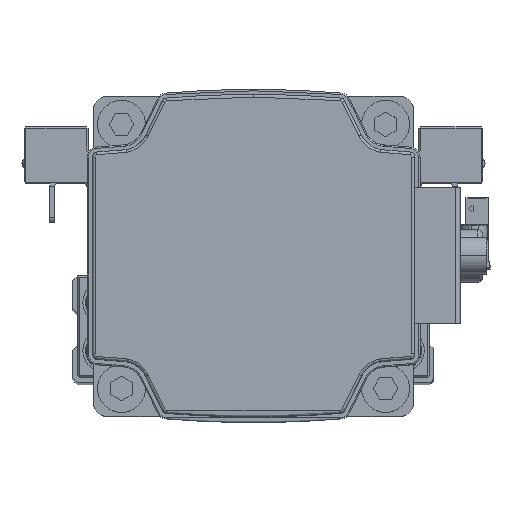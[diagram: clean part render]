
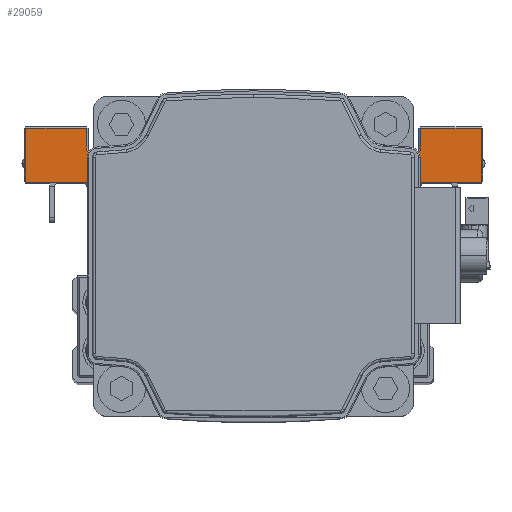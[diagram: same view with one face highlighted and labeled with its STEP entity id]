
A CAD part, top view. The second image highlights one B-rep face of the part: STEP entity #29059.
In plain terms, the highlighted planar face has unit normal (0, 0, 1) as drawn and (1, 0, 0) by its records, which use the part's own axes.
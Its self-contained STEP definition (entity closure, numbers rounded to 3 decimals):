
#133 = CARTESIAN_POINT ( 'NONE',  ( 25.5, 17.7, -31.3 ) ) ;
#140 = VERTEX_POINT ( 'NONE', #31415 ) ;
#1061 = AXIS2_PLACEMENT_3D ( 'NONE', #15854, #27722, #1085 ) ;
#1085 = DIRECTION ( 'NONE',  ( 0., 0., 1. ) ) ;
#1174 = DIRECTION ( 'NONE',  ( 0., 0., -1. ) ) ;
#1204 = DIRECTION ( 'NONE',  ( 0., 1., 0. ) ) ;
#1776 = VERTEX_POINT ( 'NONE', #18946 ) ;
#2049 = ORIENTED_EDGE ( 'NONE', *, *, #13234, .T. ) ;
#2319 = CARTESIAN_POINT ( 'NONE',  ( 25.5, 7.5, 42.7 ) ) ;
#3093 = CARTESIAN_POINT ( 'NONE',  ( 25.5, 17.7, -15. ) ) ;
#3094 = DIRECTION ( 'NONE',  ( 0., 0., 1. ) ) ;
#3113 = DIRECTION ( 'NONE',  ( -1., 0., 0. ) ) ;
#3150 = CARTESIAN_POINT ( 'NONE',  ( 25.5, -7.5, -15. ) ) ;
#3195 = CARTESIAN_POINT ( 'NONE',  ( 25.5, 14., -31.3 ) ) ;
#3429 = CIRCLE ( 'NONE', #25167, 2. ) ;
#3739 = CARTESIAN_POINT ( 'NONE',  ( 25.5, 5.5, 17. ) ) ;
#3765 = LINE ( 'NONE', #15614, #7444 ) ;
#3787 = CARTESIAN_POINT ( 'NONE',  ( 25.5, -7.5, 15. ) ) ;
#3816 = EDGE_CURVE ( 'NONE', #27417, #12379, #26136, .T. ) ;
#5341 = ORIENTED_EDGE ( 'NONE', *, *, #25834, .T. ) ;
#6537 = VERTEX_POINT ( 'NONE', #8719 ) ;
#6926 = ORIENTED_EDGE ( 'NONE', *, *, #22940, .T. ) ;
#7014 = DIRECTION ( 'NONE',  ( 0., 0., 1. ) ) ;
#7269 = VECTOR ( 'NONE', #1174, 1000. ) ;
#7329 = ORIENTED_EDGE ( 'NONE', *, *, #3816, .T. ) ;
#7444 = VECTOR ( 'NONE', #27474, 1000. ) ;
#7452 = VERTEX_POINT ( 'NONE', #9139 ) ;
#7460 = ORIENTED_EDGE ( 'NONE', *, *, #35049, .T. ) ;
#8719 = CARTESIAN_POINT ( 'NONE',  ( 25.5, 12.7, -30. ) ) ;
#9127 = VECTOR ( 'NONE', #21584, 1000. ) ;
#9139 = CARTESIAN_POINT ( 'NONE',  ( 25.5, 7.5, 17. ) ) ;
#9650 = AXIS2_PLACEMENT_3D ( 'NONE', #17871, #29738, #3094 ) ;
#9717 = CARTESIAN_POINT ( 'NONE',  ( 25.5, 7.5, -31.3 ) ) ;
#9955 = PLANE ( 'NONE',  #22537 ) ;
#10993 = CARTESIAN_POINT ( 'NONE',  ( 25.5, 5.5, -15. ) ) ;
#11079 = CARTESIAN_POINT ( 'NONE',  ( 25.5, 7.5, 15. ) ) ;
#11162 = EDGE_CURVE ( 'NONE', #31509, #27417, #17828, .T. ) ;
#11352 = DIRECTION ( 'NONE',  ( 0., 1., 0. ) ) ;
#11359 = LINE ( 'NONE', #23219, #21008 ) ;
#11821 = LINE ( 'NONE', #23676, #27663 ) ;
#11877 = CARTESIAN_POINT ( 'NONE',  ( 25.5, 12.7, 30. ) ) ;
#11954 = ORIENTED_EDGE ( 'NONE', *, *, #28867, .T. ) ;
#12064 = CARTESIAN_POINT ( 'NONE',  ( 25.5, 7.5, 42.7 ) ) ;
#12133 = ORIENTED_EDGE ( 'NONE', *, *, #31663, .T. ) ;
#12379 = VERTEX_POINT ( 'NONE', #30833 ) ;
#12691 = VERTEX_POINT ( 'NONE', #3195 ) ;
#13234 = EDGE_CURVE ( 'NONE', #34602, #13954, #15969, .T. ) ;
#13954 = VERTEX_POINT ( 'NONE', #14291 ) ;
#14183 = DIRECTION ( 'NONE',  ( 0., -1., 0. ) ) ;
#14184 = VECTOR ( 'NONE', #22942, 1000. ) ;
#14291 = CARTESIAN_POINT ( 'NONE',  ( 25.5, 17.7, -42.7 ) ) ;
#14945 = DIRECTION ( 'NONE',  ( 0., 0., 1. ) ) ;
#14967 = DIRECTION ( 'NONE',  ( 0., 0., 1. ) ) ;
#14998 = DIRECTION ( 'NONE',  ( 0., 0., -1. ) ) ;
#15591 = DIRECTION ( 'NONE',  ( -1., 0., 0. ) ) ;
#15614 = CARTESIAN_POINT ( 'NONE',  ( 25.5, 7.5, -15. ) ) ;
#15854 = CARTESIAN_POINT ( 'NONE',  ( 25.5, 14., 30. ) ) ;
#15933 = LINE ( 'NONE', #27807, #7269 ) ;
#15965 = VERTEX_POINT ( 'NONE', #25305 ) ;
#15969 = LINE ( 'NONE', #27839, #37757 ) ;
#16204 = EDGE_CURVE ( 'NONE', #6537, #31509, #38452, .T. ) ;
#16429 = VERTEX_POINT ( 'NONE', #31094 ) ;
#17765 = ORIENTED_EDGE ( 'NONE', *, *, #24360, .T. ) ;
#17828 = CIRCLE ( 'NONE', #1061, 1.3 ) ;
#17871 = CARTESIAN_POINT ( 'NONE',  ( 25.5, 14., -30. ) ) ;
#18545 = VERTEX_POINT ( 'NONE', #10993 ) ;
#18946 = CARTESIAN_POINT ( 'NONE',  ( 25.5, 17.7, 42.7 ) ) ;
#19056 = EDGE_CURVE ( 'NONE', #18545, #15965, #37121, .T. ) ;
#19435 = VERTEX_POINT ( 'NONE', #133 ) ;
#19688 = VECTOR ( 'NONE', #14183, 1000. ) ;
#20369 = AXIS2_PLACEMENT_3D ( 'NONE', #29757, #3113, #14967 ) ;
#20460 = EDGE_CURVE ( 'NONE', #7452, #16429, #3429, .T. ) ;
#21008 = VECTOR ( 'NONE', #35057, 1000. ) ;
#21584 = DIRECTION ( 'NONE',  ( 0., -1., 0. ) ) ;
#21693 = VECTOR ( 'NONE', #11352, 1000. ) ;
#21808 = CARTESIAN_POINT ( 'NONE',  ( 25.5, 7.5, -15. ) ) ;
#22124 = VERTEX_POINT ( 'NONE', #3787 ) ;
#22537 = AXIS2_PLACEMENT_3D ( 'NONE', #21808, #33652, #7014 ) ;
#22625 = ORIENTED_EDGE ( 'NONE', *, *, #16204, .T. ) ;
#22937 = EDGE_LOOP ( 'NONE', ( #5341, #2049, #33094, #6926, #12133, #22625, #32174, #7329, #36852, #7460, #33911, #38435, #17765, #11954, #26353, #36618 ) ) ;
#22940 = EDGE_CURVE ( 'NONE', #19435, #12691, #36344, .T. ) ;
#22942 = DIRECTION ( 'NONE',  ( 0., -1., 0. ) ) ;
#22986 = EDGE_CURVE ( 'NONE', #34775, #7452, #15933, .T. ) ;
#23219 = CARTESIAN_POINT ( 'NONE',  ( 25.5, 7.5, 43. ) ) ;
#23676 = CARTESIAN_POINT ( 'NONE',  ( 25.5, 17.7, -15. ) ) ;
#23731 = DIRECTION ( 'NONE',  ( 0., 0., 1. ) ) ;
#24360 = EDGE_CURVE ( 'NONE', #16429, #22124, #37705, .T. ) ;
#25167 = AXIS2_PLACEMENT_3D ( 'NONE', #3739, #15591, #27451 ) ;
#25305 = CARTESIAN_POINT ( 'NONE',  ( 25.5, 7.5, -17. ) ) ;
#25834 = EDGE_CURVE ( 'NONE', #15965, #34602, #11359, .T. ) ;
#26136 = LINE ( 'NONE', #37988, #21693 ) ;
#26306 = EDGE_CURVE ( 'NONE', #13954, #19435, #29736, .T. ) ;
#26353 = ORIENTED_EDGE ( 'NONE', *, *, #27225, .F. ) ;
#26418 = CIRCLE ( 'NONE', #9650, 1.3 ) ;
#26478 = VECTOR ( 'NONE', #23731, 1000. ) ;
#27225 = EDGE_CURVE ( 'NONE', #18545, #140, #3765, .T. ) ;
#27417 = VERTEX_POINT ( 'NONE', #31547 ) ;
#27451 = DIRECTION ( 'NONE',  ( 0., 0., 1. ) ) ;
#27474 = DIRECTION ( 'NONE',  ( 0., -1., 0. ) ) ;
#27663 = VECTOR ( 'NONE', #35516, 1000. ) ;
#27722 = DIRECTION ( 'NONE',  ( -1., 0., 0. ) ) ;
#27807 = CARTESIAN_POINT ( 'NONE',  ( 25.5, 7.5, 43. ) ) ;
#27839 = CARTESIAN_POINT ( 'NONE',  ( 25.5, 7.5, -42.7 ) ) ;
#28867 = EDGE_CURVE ( 'NONE', #22124, #140, #29793, .T. ) ;
#28942 = LINE ( 'NONE', #2319, #19688 ) ;
#28986 = CARTESIAN_POINT ( 'NONE',  ( 25.5, 7.5, -42.7 ) ) ;
#29059 = ADVANCED_FACE ( 'NONE', ( #36589 ), #9955, .F. ) ;
#29736 = LINE ( 'NONE', #3093, #32826 ) ;
#29738 = DIRECTION ( 'NONE',  ( -1., 0., 0. ) ) ;
#29757 = CARTESIAN_POINT ( 'NONE',  ( 25.5, 5.5, -17. ) ) ;
#29793 = LINE ( 'NONE', #3150, #38049 ) ;
#30833 = CARTESIAN_POINT ( 'NONE',  ( 25.5, 17.7, 31.3 ) ) ;
#31094 = CARTESIAN_POINT ( 'NONE',  ( 25.5, 5.5, 15. ) ) ;
#31415 = CARTESIAN_POINT ( 'NONE',  ( 25.5, -7.5, -15. ) ) ;
#31509 = VERTEX_POINT ( 'NONE', #34592 ) ;
#31547 = CARTESIAN_POINT ( 'NONE',  ( 25.5, 14., 31.3 ) ) ;
#31663 = EDGE_CURVE ( 'NONE', #12691, #6537, #26418, .T. ) ;
#32174 = ORIENTED_EDGE ( 'NONE', *, *, #11162, .T. ) ;
#32826 = VECTOR ( 'NONE', #14945, 1000. ) ;
#33094 = ORIENTED_EDGE ( 'NONE', *, *, #26306, .T. ) ;
#33205 = EDGE_CURVE ( 'NONE', #12379, #1776, #11821, .T. ) ;
#33652 = DIRECTION ( 'NONE',  ( -1., 0., 0. ) ) ;
#33911 = ORIENTED_EDGE ( 'NONE', *, *, #22986, .T. ) ;
#34592 = CARTESIAN_POINT ( 'NONE',  ( 25.5, 12.7, 30. ) ) ;
#34602 = VERTEX_POINT ( 'NONE', #28986 ) ;
#34775 = VERTEX_POINT ( 'NONE', #12064 ) ;
#35049 = EDGE_CURVE ( 'NONE', #1776, #34775, #28942, .T. ) ;
#35057 = DIRECTION ( 'NONE',  ( 0., 0., -1. ) ) ;
#35516 = DIRECTION ( 'NONE',  ( 0., 0., 1. ) ) ;
#36344 = LINE ( 'NONE', #9717, #9127 ) ;
#36589 = FACE_OUTER_BOUND ( 'NONE', #22937, .T. ) ;
#36618 = ORIENTED_EDGE ( 'NONE', *, *, #19056, .T. ) ;
#36852 = ORIENTED_EDGE ( 'NONE', *, *, #33205, .T. ) ;
#37121 = CIRCLE ( 'NONE', #20369, 2. ) ;
#37705 = LINE ( 'NONE', #11079, #14184 ) ;
#37757 = VECTOR ( 'NONE', #1204, 1000. ) ;
#37988 = CARTESIAN_POINT ( 'NONE',  ( 25.5, 7.5, 31.3 ) ) ;
#38049 = VECTOR ( 'NONE', #14998, 1000. ) ;
#38435 = ORIENTED_EDGE ( 'NONE', *, *, #20460, .T. ) ;
#38452 = LINE ( 'NONE', #11877, #26478 ) ;
